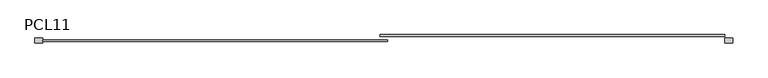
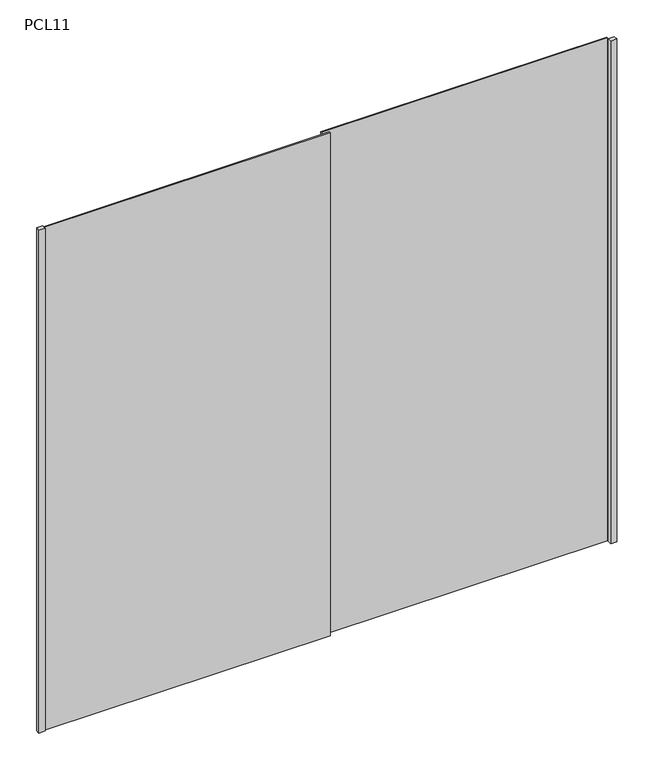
"""IFC4 building model written with IfcOpenShell, lengths in millimetres: furniture geometry, Puerta Closet corre 2 hojas : PCL11."""

from ifc_helpers import new_model, si_unit, origin, origin_with_axes, place, context, project, spatial, polyline, outline, extrude, source, transform, mapped, element, save


def pcl11_e883eab7(model_context):
    return source(origin(), model_context, "Body", "SweptSolid", [
        extrude(outline(polyline([(830.0, 80.0), (800.0, 80.0), (800.0, 100.0), (830.0, 100.0), (830.0, 80.0)])), origin_with_axes(), (0.0, 0.0, 1.0), 2520.0),
        extrude(outline(polyline([(800.0, 106.6666667), (-555.0, 106.6666667), (-555.0, 113.3333333), (800.0, 113.3333333), (800.0, 106.6666667)])), origin_with_axes(), (0.0, 0.0, 1.0), 2520.0),
        extrude(outline(polyline([(-525.0, 86.6666667), (-1880.0, 86.6666667), (-1880.0, 93.3333333), (-525.0, 93.3333333), (-525.0, 86.6666667)])), origin_with_axes(), (0.0, 0.0, 1.0), 2520.0),
        extrude(outline(polyline([(-1910.0, 80.0), (-1910.0, 100.0), (-1880.0, 100.0), (-1880.0, 80.0), (-1910.0, 80.0)])), origin_with_axes(), (0.0, 0.0, 1.0), 2520.0),
    ])


if __name__ == "__main__":
    model = new_model("IFC4")
    model_context = context("Model", 3, world=origin())
    ifc_project = project(units=[si_unit("LENGTHUNIT", "METRE", prefix="MILLI")], contexts=[model_context])
    site = spatial("IfcSite", under=ifc_project)
    building = spatial("IfcBuilding", under=site)
    placement = place(None, origin())
    pcl11_shape = pcl11_e883eab7(model_context)
    element("IfcFurniture", 1, ObjectType="Puerta Closet corre 2 hojas : PCL11", at=placement, inside=building, context=model_context, shape_type="MappedRepresentation", body=[
        mapped(pcl11_shape, transform((0.0, 0.0, 0.0), x_axis=(1.0, 0.0, 0.0), y_axis=(0.0, 1.0, 0.0), z_axis=(0.0, 0.0, 1.0))),
    ])
    save(model, "model.ifc")
